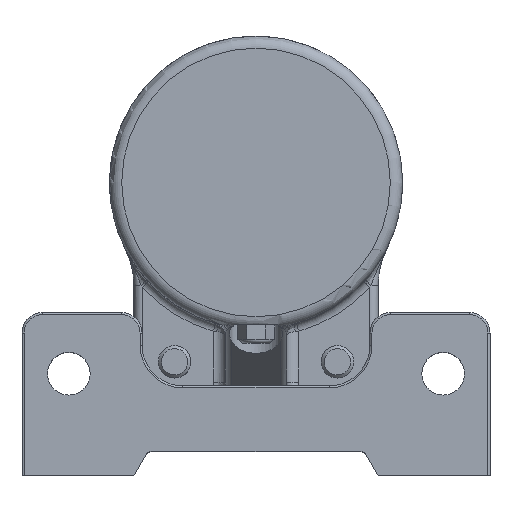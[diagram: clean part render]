
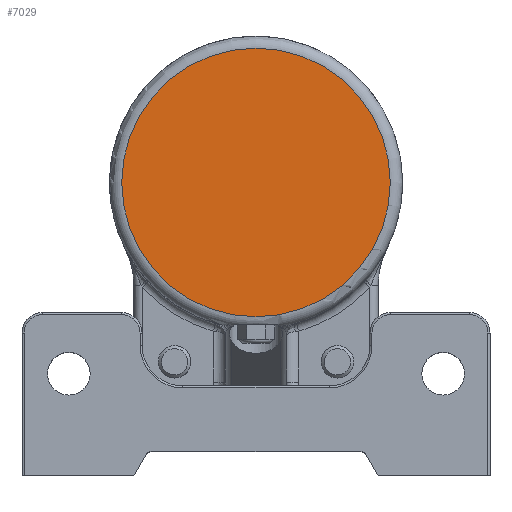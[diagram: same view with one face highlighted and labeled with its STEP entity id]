
A CAD part, top view. The second image highlights one B-rep face of the part: STEP entity #7029.
In plain terms, the highlighted planar face has unit normal (0, 0, 1).
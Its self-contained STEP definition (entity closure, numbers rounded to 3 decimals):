
#270=PLANE('',#7608);
#504=FACE_OUTER_BOUND('',#917,.T.);
#917=EDGE_LOOP('',(#5026,#5027));
#1422=CIRCLE('',#7533,33.);
#1423=CIRCLE('',#7534,33.);
#2823=VERTEX_POINT('',#11007);
#2824=VERTEX_POINT('',#11009);
#3575=EDGE_CURVE('',#2823,#2824,#1422,.T.);
#3576=EDGE_CURVE('',#2824,#2823,#1423,.T.);
#5026=ORIENTED_EDGE('',*,*,#3576,.F.);
#5027=ORIENTED_EDGE('',*,*,#3575,.F.);
#7029=ADVANCED_FACE('',(#504),#270,.T.);
#7533=AXIS2_PLACEMENT_3D('',#11010,#8744,#8745);
#7534=AXIS2_PLACEMENT_3D('',#11011,#8746,#8747);
#7608=AXIS2_PLACEMENT_3D('',#11815,#8920,#8921);
#8744=DIRECTION('center_axis',(0.,0.,
-1.));
#8745=DIRECTION('ref_axis',(0.,-1.,0.));
#8746=DIRECTION('center_axis',(0.,0.,
-1.));
#8747=DIRECTION('ref_axis',(0.,-1.,0.));
#8920=DIRECTION('center_axis',(0.,0.,
1.));
#8921=DIRECTION('ref_axis',(1.,0.,0.));
#11007=CARTESIAN_POINT('',(33.,72.,63.));
#11009=CARTESIAN_POINT('',(0.,105.,63.));
#11010=CARTESIAN_POINT('Origin',(0.,72.,
63.));
#11011=CARTESIAN_POINT('Origin',(0.,72.,
63.));
#11815=CARTESIAN_POINT('Origin',(0.,90.,
63.));
